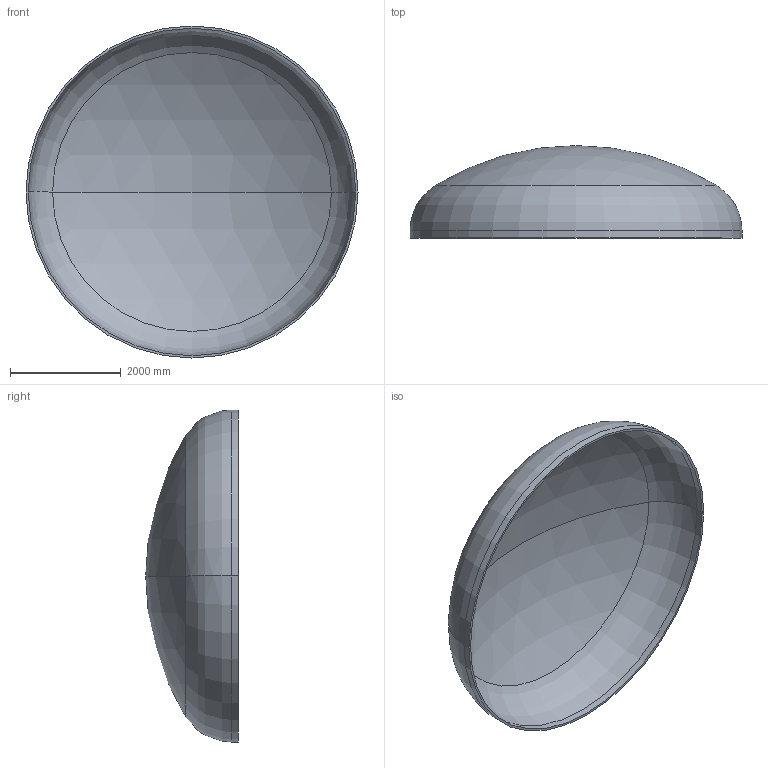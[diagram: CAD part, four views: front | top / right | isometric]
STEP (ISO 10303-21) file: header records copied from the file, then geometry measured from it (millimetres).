
FILE_DESCRIPTION (( 'STEP AP203' ), '1' );
FILE_NAME ('DIN 28013 Korbbogenform_-_Boden DIN 28013 - 6000 x 130 - I - s=41.step', '2016-07-04T10:36:58', ( '' ), ( '' ), 'SwSTEP 2.0', 'SolidWorks 2013', '' );
FILE_SCHEMA (( 'CONFIG_CONTROL_DESIGN' ));
Length unit declared in the file: millimetre
Products named in the file (1): DIN 28013 Korbbogenform_-_Boden DIN 28013 - 6000 x 130 - I - s=41
Bounding box: 6000 x 1672.75 x 6000 mm (x, y, z)
Volume: 1691241158.2 mm3; surface area: 83270608.4 mm2
Topology: 1 solids, 1 shells, 13 faces, 24 edges, 14 vertices
Faces by surface type: torus 4, cylinder 4, sphere 4, plane 1
Entity records: 407 total; most frequent: DIRECTION 72, CARTESIAN_POINT 52, ORIENTED_EDGE 48, AXIS2_PLACEMENT_3D 34, EDGE_CURVE 24, CIRCLE 20, EDGE_LOOP 14, VERTEX_POINT 14
